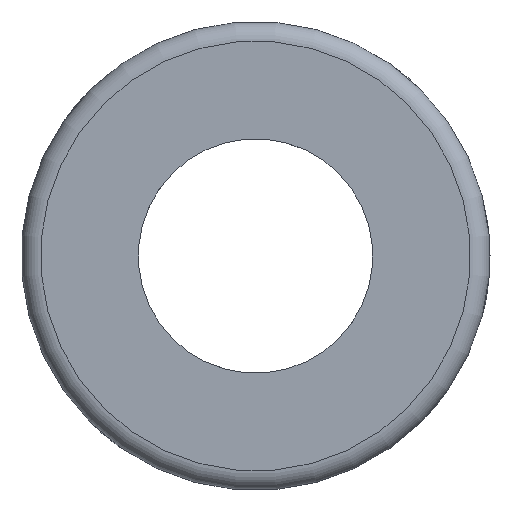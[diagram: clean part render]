
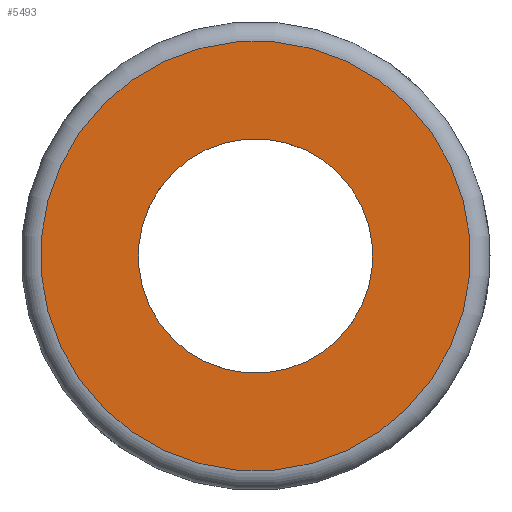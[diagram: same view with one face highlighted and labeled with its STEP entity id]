
A CAD part, left-side view. The second image highlights one B-rep face of the part: STEP entity #5493.
In plain terms, the highlighted planar face has unit normal (-1, 0, 0).
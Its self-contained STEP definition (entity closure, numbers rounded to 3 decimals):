
#122=PLANE('',#5913);
#581=CIRCLE('',#5910,3.);
#583=CIRCLE('',#5914,5.5);
#939=ORIENTED_EDGE('',*,*,#2598,.T.);
#940=ORIENTED_EDGE('',*,*,#2588,.T.);
#2588=EDGE_CURVE('',#3418,#3418,#581,.T.);
#2598=EDGE_CURVE('',#3428,#3428,#583,.F.);
#3418=VERTEX_POINT('',#8462);
#3428=VERTEX_POINT('',#8500);
#4682=EDGE_LOOP('',(#939));
#4683=EDGE_LOOP('',(#940));
#5082=FACE_BOUND('',#4682,.T.);
#5083=FACE_BOUND('',#4683,.T.);
#5493=ADVANCED_FACE('',(#5082,#5083),#122,.F.);
#5910=AXIS2_PLACEMENT_3D('',#8461,#6470,#6471);
#5913=AXIS2_PLACEMENT_3D('',#8498,#6480,#6481);
#5914=AXIS2_PLACEMENT_3D('',#8499,#6482,#6483);
#6470=DIRECTION('',(1.,0.,0.));
#6471=DIRECTION('',(0.,0.707,-0.707));
#6480=DIRECTION('',(1.,0.,0.));
#6481=DIRECTION('',(0.,0.707,-0.707));
#6482=DIRECTION('',(1.,0.,0.));
#6483=DIRECTION('',(0.,0.707,-0.707));
#8461=CARTESIAN_POINT('',(-11.,0.,0.));
#8462=CARTESIAN_POINT('',(-11.,2.121,-2.121));
#8498=CARTESIAN_POINT('',(-11.,0.,0.));
#8499=CARTESIAN_POINT('',(-11.,0.,0.));
#8500=CARTESIAN_POINT('',(-11.,3.889,-3.889));
